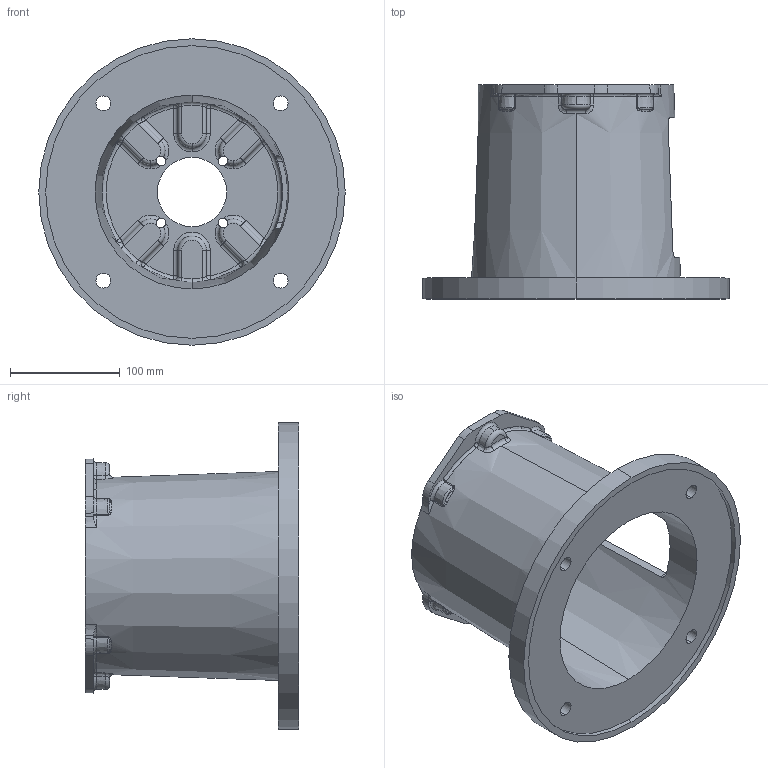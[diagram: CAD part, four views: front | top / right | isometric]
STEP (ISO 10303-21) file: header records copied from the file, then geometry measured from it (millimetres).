
FILE_DESCRIPTION (( 'STEP AP203' ), '1' );
FILE_NAME ('M2847563MS.STEP', '2015-01-19T16:30:39', ( '' ), ( '' ), 'SwSTEP 2.0', 'SolidWorks 2014', '' );
FILE_SCHEMA (( 'CONFIG_CONTROL_DESIGN' ));
Length unit declared in the file: inch
Products named in the file (1): M2847563MS
Bounding box: 279.4 x 195.07 x 279.4 mm (x, y, z)
Volume: 1485501.7 mm3; surface area: 331949 mm2
Topology: 1 solids, 1 shells, 346 faces, 884 edges, 519 vertices
Faces by surface type: torus 109, cylinder 82, bspline 64, plane 45, sphere 24, cone 22
Entity records: 14217 total; most frequent: CARTESIAN_POINT 6258, ORIENTED_EDGE 1728, DIRECTION 1654, EDGE_CURVE 864, AXIS2_PLACEMENT_3D 749, VERTEX_POINT 519, CIRCLE 466, EDGE_LOOP 365
